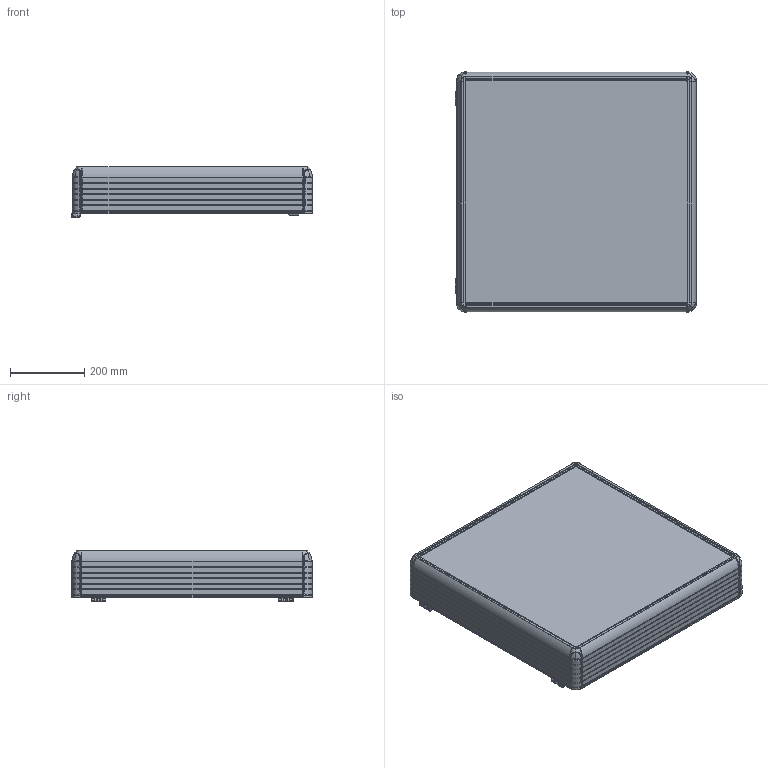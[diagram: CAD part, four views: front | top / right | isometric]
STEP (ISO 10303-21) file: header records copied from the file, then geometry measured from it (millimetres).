
FILE_DESCRIPTION (( 'STEP AP214' ), '1' );
FILE_NAME ('1200-0016.STEP', '2022-09-01T07:42:53', ( '' ), ( '' ), 'SwSTEP 2.0', 'SolidWorks 2022', '' );
FILE_SCHEMA (( 'AUTOMOTIVE_DESIGN' ));
Length unit declared in the file: millimetre
Products named in the file (5): 1200-0016; ARKA_KAPAK_600X600; 600X600; HPECO-120-001-295_595; ECO1200-0000
Assembly tree (10 placements, depth 2):
  1200-0016
    600X600
    ARKA_KAPAK_600X600
    HPECO-120-001-295_595  x4
    ECO1200-0000  x4
Bounding box: 649.03 x 647 x 139.15 mm (x, y, z)
Volume: 6600671.9 mm3; surface area: 2494254 mm2
Topology: 18 solids, 68 shells, 5793 faces, 15616 edges, 9766 vertices
Faces by surface type: plane 2417, cylinder 1464, bspline 1056, cone 566, torus 244, sphere 46
Entity records: 145186 total; most frequent: CARTESIAN_POINT 34696, ORIENTED_EDGE 17332, DIRECTION 15223, EDGE_CURVE 8666, AXIS2_PLACEMENT_3D 5603, VERTEX_POINT 5389, VECTOR 4017, LINE 4017
